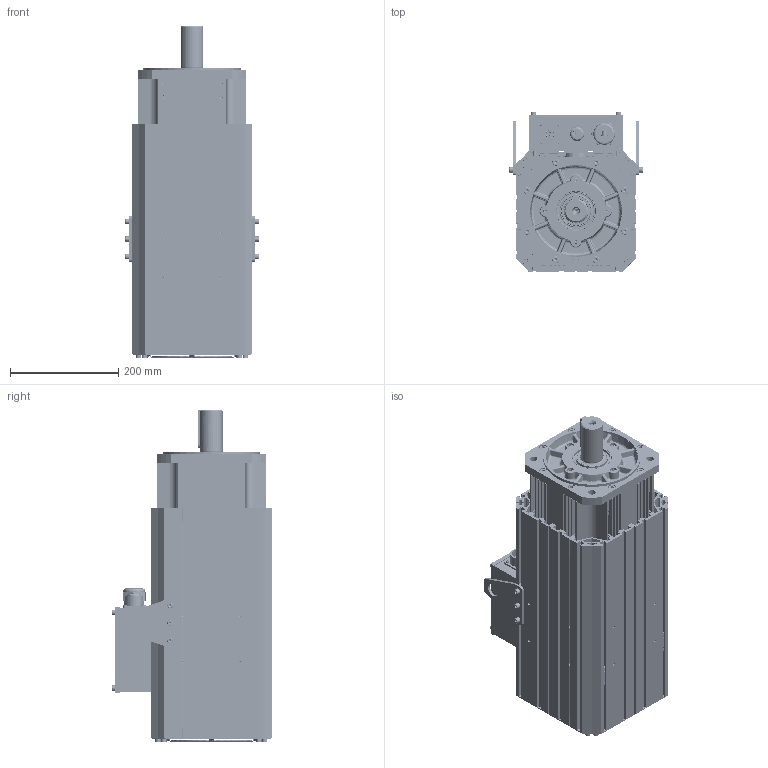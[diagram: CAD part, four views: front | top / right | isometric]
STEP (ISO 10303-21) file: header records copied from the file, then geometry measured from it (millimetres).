
FILE_DESCRIPTION (( 'STEP AP214' ), '1' );
FILE_NAME ('VM7-M20D-02215-D1FN.STEP', '2022-04-02T02:06:19', ( '' ), ( '' ), 'SwSTEP 2.0', 'SolidWorks 2014', '' );
FILE_SCHEMA (( 'AUTOMOTIVE_DESIGN' ));
Length unit declared in the file: millimetre
Products named in the file (3): 翋极ㄗVM7-M20Dㄘ; VM7-M20D-02215-D1FN; 俋褲ㄗVM7-M20Dㄘ
Assembly tree (2 placements, depth 2):
  VM7-M20D-02215-D1FN
    翋极ㄗVM7-M20Dㄘ
    俋褲ㄗVM7-M20Dㄘ
Bounding box: 246.2 x 294.7 x 613 mm (x, y, z)
Volume: 2134379.2 mm3; surface area: 2718621.4 mm2
Topology: 45 solids, 183 shells, 5660 faces, 14472 edges, 9117 vertices
Faces by surface type: plane 3221, cylinder 1323, cone 587, bspline 529
Entity records: 187119 total; most frequent: CARTESIAN_POINT 50233, ORIENTED_EDGE 28442, DIRECTION 27688, EDGE_CURVE 14230, AXIS2_PLACEMENT_3D 9527, VERTEX_POINT 9117, LINE 8634, VECTOR 8634
